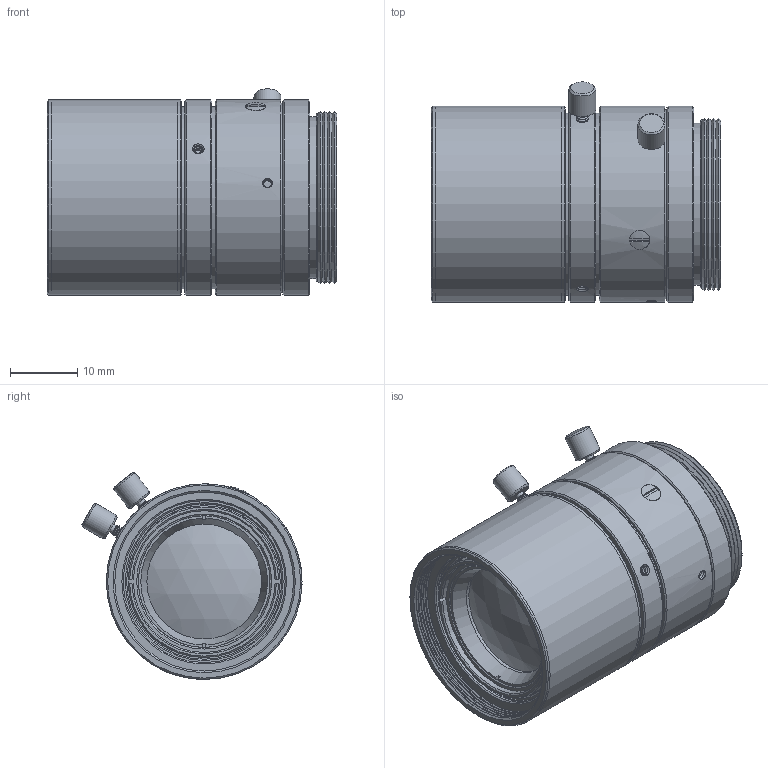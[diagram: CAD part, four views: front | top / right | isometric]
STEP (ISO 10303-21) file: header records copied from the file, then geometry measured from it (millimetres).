
FILE_DESCRIPTION(/* description */ ('Unknown'),/* implementation_level */ '2;1');
FILE_NAME(/* name */ 'M3528-MPW3',/* time_stamp */ '2021-03-21T08:56:25+09:00',/* author */ ('Unknown'),/* organization */ ('Unknown'),/* preprocessor_version */ 'ST-DEVELOPER v16.7',/* originating_system */ 'DEX',/* authorisation */ $);
FILE_SCHEMA (('AUTOMOTIVE_DESIGN {1 0 10303 214 3 1 1}'));
Length unit declared in the file: millimetre
Products named in the file (3): M3528-MPW3 Infinity; M3528-MPW3 Infinity_0; M3528-MPW3 Mechanical Limit_0
Assembly tree (2 placements, depth 2):
  M3528-MPW3 Infinity
    M3528-MPW3 Infinity_0
    M3528-MPW3 Mechanical Limit_0
Bounding box: 42.87 x 32.61 x 30.65 mm (x, y, z)
Volume: 28283.2 mm3; surface area: 51548.3 mm2
Topology: 40 solids, 40 shells, 1214 faces, 2430 edges, 1398 vertices
Faces by surface type: cone 752, plane 262, cylinder 188, sphere 12
Full cylindrical faces by diameter (mm): 1 x2, 1.3 x4, 1.5 x8, 2 x12, 3 x4, 4 x4, 7 x2, 11 x4, 11.8 x2, 13 x4, 14 x4, 15 x2, 16.3 x2, 17 x4, 18 x4, 19 x8, 20 x6, 20.5 x2, 21 x2, 22.5 x2, 23 x4, 23.5 x2, 24 x4, 24.1 x2, 24.5 x16, 25 x2, 25.5 x8, 26 x2, 27 x4, 27.5 x6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
Entity records: 27081 total; most frequent: DIRECTION 5102, CARTESIAN_POINT 4417, ORIENTED_EDGE 3076, AXIS2_PLACEMENT_3D 2393, EDGE_LOOP 2248, FACE_BOUND 2248, EDGE_CURVE 1538, VERTEX_POINT 1358
